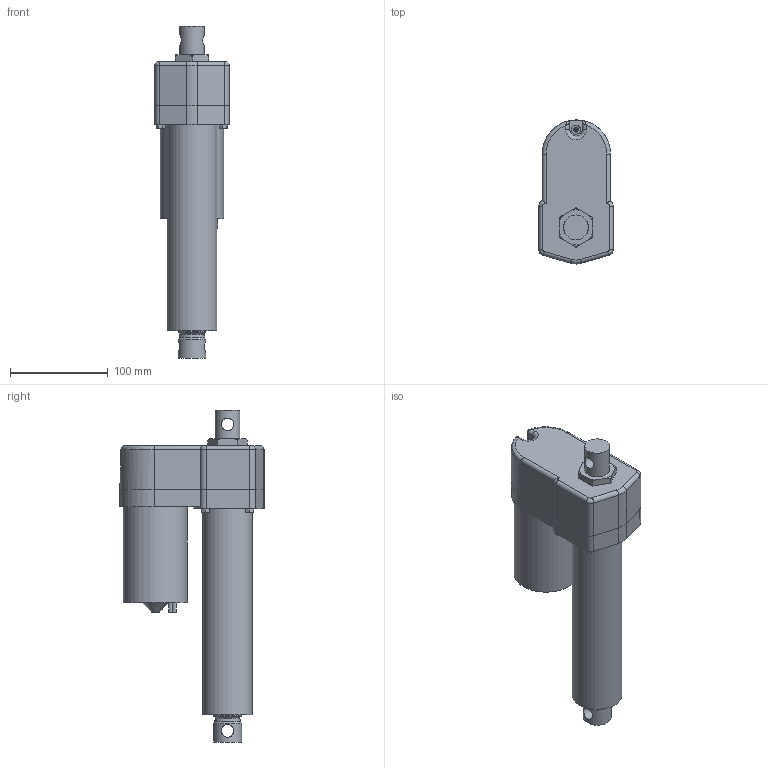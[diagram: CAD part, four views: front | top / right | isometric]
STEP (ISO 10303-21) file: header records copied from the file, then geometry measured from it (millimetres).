
FILE_DESCRIPTION (( 'STEP AP214' ), '1' );
FILE_NAME ('D12-05A5-06M0N-tollo.step', '2020-04-13T14:30:05', ( '' ), ( '' ), 'SwSTEP 2.0', 'SolidWorks 2010', '' );
FILE_SCHEMA (( 'AUTOMOTIVE_DESIGN' ));
Length unit declared in the file: millimetre
Products named in the file (7): Electrak-LA10-Motor-D12-05A5-06M0N-tollo_Electrak-LA10-Motor-D12-05A5-06M0N-tollo; Electrak-LA10-Rear-D12-05A5-06M0N-tollo_Electrak-LA10-Rear-D12-05A5-06M0N-tollo; Electrak-LA10-Tube-D12-05A5-06M0N-tollo_Electrak-LA10-Tube-D12-05A5-06M0N-tollo; Electrak-LA10-Rod-D12-05A5-06M0N-tollo_Electrak-LA10-Rod-D12-05A5-06M0N-tollo; Screw-MFX-H-M5-D12-05A5-06M0N-tollo_Screw-MFX-H-M5-D12-05A5-06M0N-tollo; Screw-M6S-M5-D12-05A5-06M0N-tollo_Screw-M6S-M5-D12-05A5-06M0N-tollo; D12-05A5-06M0N-tollo
Assembly tree (9 placements, depth 2):
  D12-05A5-06M0N-tollo
    Screw-M6S-M5-D12-05A5-06M0N-tollo_Screw-M6S-M5-D12-05A5-06M0N-tollo  x4
    Electrak-LA10-Tube-D12-05A5-06M0N-tollo_Electrak-LA10-Tube-D12-05A5-06M0N-tollo
    Electrak-LA10-Rear-D12-05A5-06M0N-tollo_Electrak-LA10-Rear-D12-05A5-06M0N-tollo
    Electrak-LA10-Rod-D12-05A5-06M0N-tollo_Electrak-LA10-Rod-D12-05A5-06M0N-tollo
    Electrak-LA10-Motor-D12-05A5-06M0N-tollo_Electrak-LA10-Motor-D12-05A5-06M0N-tollo
    Screw-MFX-H-M5-D12-05A5-06M0N-tollo_Screw-MFX-H-M5-D12-05A5-06M0N-tollo
Bounding box: 76.2 x 147.19 x 339.2 mm (x, y, z)
Volume: 1390834.4 mm3; surface area: 170779.3 mm2
Topology: 9 solids, 9 shells, 221 faces, 506 edges, 322 vertices
Faces by surface type: plane 91, cylinder 84, cone 30, torus 14, bspline 2
Full cylindrical faces by diameter (mm): 4 x2, 4.126 x5, 4.8 x10, 5 x5, 7.878 x4, 9.3 x1, 12.8 x2, 25.4 x1, 28.6 x4, 51 x1, 65.3 x1
Entity records: 5123 total; most frequent: CARTESIAN_POINT 1484, DIRECTION 724, ORIENTED_EDGE 594, AXIS2_PLACEMENT_3D 305, EDGE_CURVE 297, EDGE_LOOP 224, VERTEX_POINT 213, FACE_OUTER_BOUND 179
